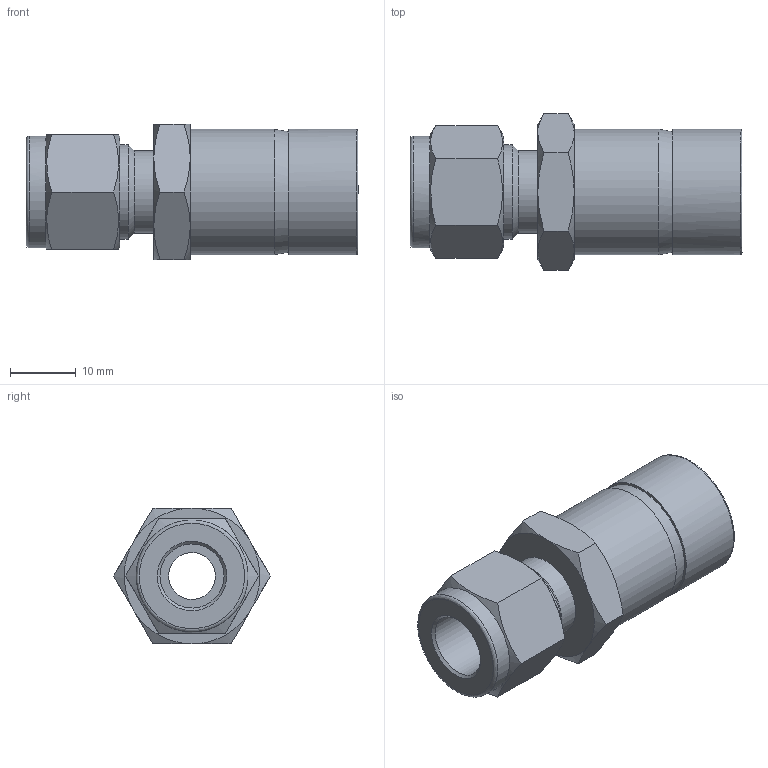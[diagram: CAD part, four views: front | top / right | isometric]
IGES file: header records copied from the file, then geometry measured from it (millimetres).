
Global section: file name: SR-6-12; native system: Autodesk Inventor 2016; preprocessor: unknown; author: DESIGNPC2; date: 20151112.111334; units: millimetre
Bounding box: 50.41 x 23.79 x 20.6 mm (x, y, z)
Volume: 7536.7 mm3; surface area: 5653.9 mm2
Topology: 1 solids, 1 shells, 47 faces, 126 edges, 86 vertices
Faces by surface type: bspline 47
